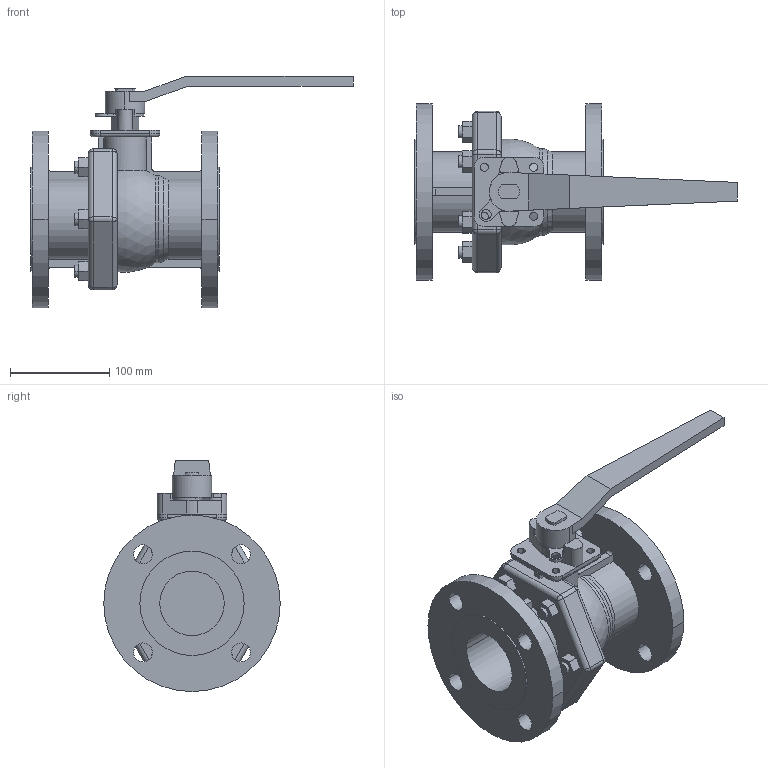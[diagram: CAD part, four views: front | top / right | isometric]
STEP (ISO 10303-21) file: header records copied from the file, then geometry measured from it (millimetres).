
FILE_DESCRIPTION( (''), '2;1');
FILE_NAME ('PC2091.16192.BLV-2SF ANSI150lb 65A_6335.stp','2026-05-28T09:09:06',(''),(''),'spGate 21.9.4 (****-****-****-****)','','');
FILE_SCHEMA (('AUTOMOTIVE_DESIGN'));
Length unit declared in the file: millimetre
Products named in the file (2): Assembly; BLV-2SFA 65A
Assembly tree (1 placements, depth 2):
  Assembly
    BLV-2SFA 65A
Bounding box: 325 x 177.8 x 232.9 mm (x, y, z)
Volume: 1749198.4 mm3; surface area: 255081.3 mm2
Topology: 1 solids, 1 shells, 243 faces, 631 edges, 395 vertices
Faces by surface type: plane 116, cylinder 106, sphere 13, bspline 8
Entity records: 12613 total; most frequent: CARTESIAN_POINT 1595, DIRECTION 1276, ORIENTED_EDGE 1238, COLOUR_RGB 863, PRESENTATION_STYLE_ASSIGNMENT 863, STYLED_ITEM 863, EDGE_CURVE 619, DRAUGHTING_PRE_DEFINED_CURVE_FONT 619
